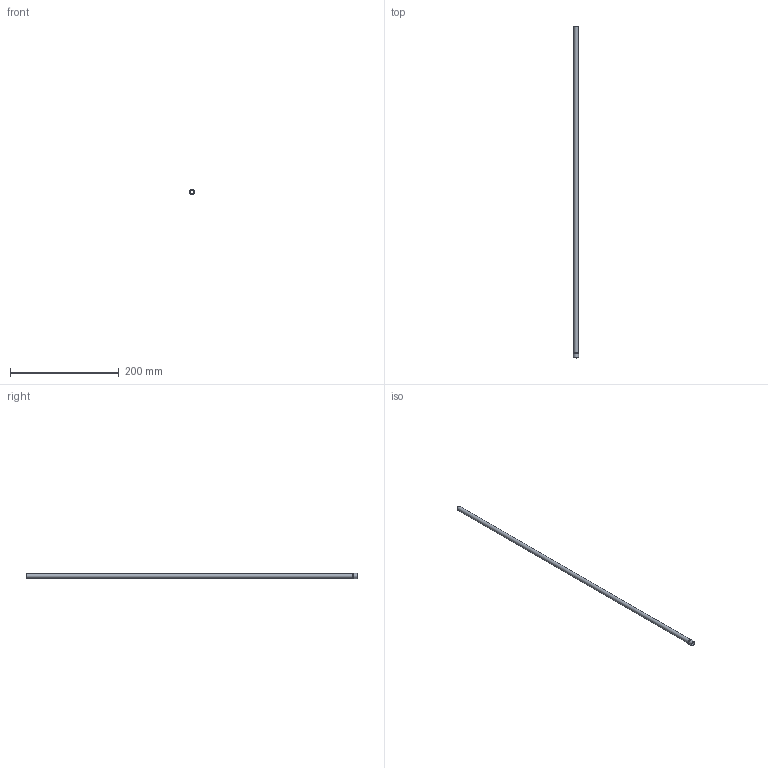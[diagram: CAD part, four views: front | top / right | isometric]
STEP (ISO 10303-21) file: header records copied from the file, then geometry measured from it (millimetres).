
FILE_DESCRIPTION(/* description */ (''),/* implementation_level */ '2;1');
FILE_NAME(/* name */ 'C:/Users/drich/Desktop/HF312T-24 v1.step',/* time_stamp */ '2019-12-30T13:32:23-06:00',/* author */ (''),/* organization */ (''),/* preprocessor_version */ 'ST-DEVELOPER v18',/* originating_system */ 'Autodesk Translation Framework v8.12.0.6',/* authorisation */ '');
FILE_SCHEMA (('AUTOMOTIVE_DESIGN { 1 0 10303 214 3 1 1 }'));
Length unit declared in the file: inch
Products named in the file (1): HF312T-24
Bounding box: 9.58 x 609.6 x 9.58 mm (x, y, z)
Volume: 4634.3 mm3; surface area: 29277.1 mm2
Topology: 1 solids, 1 shells, 12 faces, 30 edges, 22 vertices
Faces by surface type: plane 4, cylinder 4, torus 3, cone 1
Full cylindrical faces by diameter (mm): 7.315 x1, 7.925 x1, 9.406 x1, 9.576 x1
Entity records: 426 total; most frequent: DIRECTION 81, CARTESIAN_POINT 65, ORIENTED_EDGE 60, AXIS2_PLACEMENT_3D 38, EDGE_CURVE 30, CIRCLE 25, VERTEX_POINT 22, EDGE_LOOP 16
